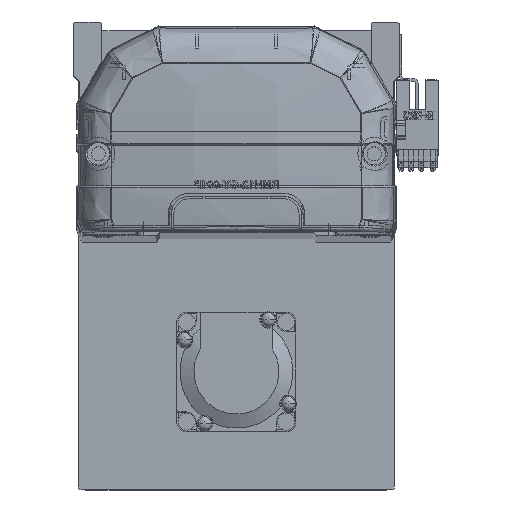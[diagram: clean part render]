
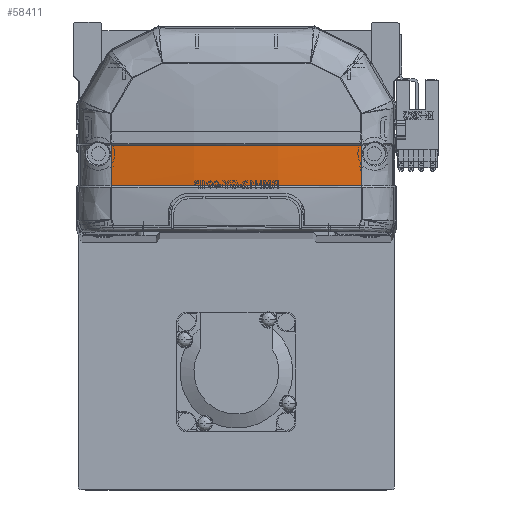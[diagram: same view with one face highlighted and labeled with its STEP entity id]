
A CAD part, top view. The second image highlights one B-rep face of the part: STEP entity #58411.
In plain terms, the highlighted free-form (B-spline) face has degree [3, 3] with [4, 4] control points.
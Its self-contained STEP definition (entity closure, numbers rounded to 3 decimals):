
#291 = CARTESIAN_POINT ( 'NONE',  ( -33.365, 15.83, -6.848 ) ) ;
#820 = CARTESIAN_POINT ( 'NONE',  ( -39.963, 28.706, -6.372 ) ) ;
#3650 = CARTESIAN_POINT ( 'NONE',  ( 39.963, 28.706, -6.372 ) ) ;
#4885 = CARTESIAN_POINT ( 'NONE',  ( -39.985, 15.83, -5.879 ) ) ;
#5295 = ORIENTED_EDGE ( 'NONE', *, *, #16341, .T. ) ;
#5633 = CARTESIAN_POINT ( 'NONE',  ( -39.973, 20.118, -6.142 ) ) ;
#6248 = CARTESIAN_POINT ( 'NONE',  ( -13.598, 28.769, -10.535 ) ) ;
#7015 = CARTESIAN_POINT ( 'NONE',  ( 40.461, 20.111, -6.066 ) ) ;
#8020 = CARTESIAN_POINT ( 'NONE',  ( -39.985, 15.83, -5.879 ) ) ;
#11520 = EDGE_CURVE ( 'NONE', #18329, #19950, #35708, .T. ) ;
#11659 = CARTESIAN_POINT ( 'NONE',  ( 40.461, 28.832, -6.296 ) ) ;
#11880 = CARTESIAN_POINT ( 'NONE',  ( 39.985, 15.83, -5.879 ) ) ;
#12145 = EDGE_CURVE ( 'NONE', #16200, #19950, #37299, .T. ) ;
#13871 = EDGE_CURVE ( 'NONE', #16200, #17634, #33442, .T. ) ;
#15777 = B_SPLINE_CURVE_WITH_KNOTS ( 'NONE', 3,
 ( #29321, #28522, #33249, #37924 ),
 .UNSPECIFIED., .F., .F.,
 ( 4, 4 ),
 ( 0., 1. ),
 .UNSPECIFIED. ) ;
#15968 = CARTESIAN_POINT ( 'NONE',  ( 40.461, 24.47, -6.231 ) ) ;
#16200 = VERTEX_POINT ( 'NONE', #47004 ) ;
#16341 = EDGE_CURVE ( 'NONE', #18329, #17634, #15777, .T. ) ;
#16360 = CARTESIAN_POINT ( 'NONE',  ( 13.598, 24.342, -10.47 ) ) ;
#17634 = VERTEX_POINT ( 'NONE', #42639 ) ;
#18069 = CARTESIAN_POINT ( 'NONE',  ( -36.679, 15.83, -6.395 ) ) ;
#18329 = VERTEX_POINT ( 'NONE', #11880 ) ;
#19950 = VERTEX_POINT ( 'NONE', #8020 ) ;
#20629 = CARTESIAN_POINT ( 'NONE',  ( -40.461, 28.832, -6.296 ) ) ;
#20828 = CARTESIAN_POINT ( 'NONE',  ( 13.598, 28.769, -10.535 ) ) ;
#21020 = CARTESIAN_POINT ( 'NONE',  ( -13.598, 24.342, -10.47 ) ) ;
#22759 = CARTESIAN_POINT ( 'NONE',  ( -6.692, 15.83, -8.984 ) ) ;
#28522 = CARTESIAN_POINT ( 'NONE',  ( 39.973, 20.12, -6.142 ) ) ;
#28584 = CARTESIAN_POINT ( 'NONE',  ( -39.966, 24.412, -6.306 ) ) ;
#29321 = CARTESIAN_POINT ( 'NONE',  ( 39.985, 15.83, -5.879 ) ) ;
#31452 = CARTESIAN_POINT ( 'NONE',  ( 26.749, 28.706, -8.432 ) ) ;
#32330 = CARTESIAN_POINT ( 'NONE',  ( -23.389, 15.83, -7.947 ) ) ;
#33249 = CARTESIAN_POINT ( 'NONE',  ( 39.966, 24.413, -6.306 ) ) ;
#33304 = CARTESIAN_POINT ( 'NONE',  ( -39.985, 15.83, -5.879 ) ) ;
#33442 = B_SPLINE_CURVE_WITH_KNOTS ( 'NONE', 3,
 ( #50028, #41254, #59422, #41437, #31452, #3650 ),
 .UNSPECIFIED., .F., .F.,
 ( 4, 2, 4 ),
 ( 0., 0.5, 1. ),
 .UNSPECIFIED. ) ;
#34910 = CARTESIAN_POINT ( 'NONE',  ( 40.461, 15.757, -5.8 ) ) ;
#35708 = B_SPLINE_CURVE_WITH_KNOTS ( 'NONE', 3,
 ( #41692, #37429, #51289, #22759, #60075, #32330, #41293, #291, #18069, #4885 ),
 .UNSPECIFIED., .F., .F.,
 ( 4, 2, 2, 2, 4 ),
 ( 0., 0.04, 0.06, 0.07, 0.08 ),
 .UNSPECIFIED. ) ;
#37299 = B_SPLINE_CURVE_WITH_KNOTS ( 'NONE', 3,
 ( #820, #28584, #5633, #33304 ),
 .UNSPECIFIED., .F., .F.,
 ( 4, 4 ),
 ( 0., 1. ),
 .UNSPECIFIED. ) ;
#37429 = CARTESIAN_POINT ( 'NONE',  ( 26.761, 15.83, -7.945 ) ) ;
#37924 = CARTESIAN_POINT ( 'NONE',  ( 39.963, 28.706, -6.372 ) ) ;
#39162 = FACE_OUTER_BOUND ( 'NONE', #57085, .T. ) ;
#41254 = CARTESIAN_POINT ( 'NONE',  ( -26.748, 28.706, -8.432 ) ) ;
#41293 = CARTESIAN_POINT ( 'NONE',  ( -26.721, 15.83, -7.624 ) ) ;
#41437 = CARTESIAN_POINT ( 'NONE',  ( 13.375, 28.707, -9.468 ) ) ;
#41692 = CARTESIAN_POINT ( 'NONE',  ( 39.985, 15.83, -5.879 ) ) ;
#42639 = CARTESIAN_POINT ( 'NONE',  ( 39.963, 28.706, -6.372 ) ) ;
#44231 = CARTESIAN_POINT ( 'NONE',  ( 13.598, 19.918, -10.302 ) ) ;
#47004 = CARTESIAN_POINT ( 'NONE',  ( -39.963, 28.706, -6.372 ) ) ;
#47555 = ORIENTED_EDGE ( 'NONE', *, *, #12145, .T. ) ;
#48544 = CARTESIAN_POINT ( 'NONE',  ( -40.461, 15.757, -5.8 ) ) ;
#48732 = CARTESIAN_POINT ( 'NONE',  ( 13.598, 15.499, -10.032 ) ) ;
#48922 = CARTESIAN_POINT ( 'NONE',  ( -13.598, 19.918, -10.302 ) ) ;
#50028 = CARTESIAN_POINT ( 'NONE',  ( -39.963, 28.706, -6.372 ) ) ;
#51289 = CARTESIAN_POINT ( 'NONE',  ( 13.38, 15.83, -8.984 ) ) ;
#51839 = ORIENTED_EDGE ( 'NONE', *, *, #13871, .F. ) ;
#53453 = CARTESIAN_POINT ( 'NONE',  ( -40.461, 24.47, -6.231 ) ) ;
#53650 = CARTESIAN_POINT ( 'NONE',  ( -40.461, 20.111, -6.066 ) ) ;
#57076 = ORIENTED_EDGE ( 'NONE', *, *, #11520, .F. ) ;
#57085 = EDGE_LOOP ( 'NONE', ( #5295, #51839, #47555, #57076 ) ) ;
#57955 = CARTESIAN_POINT ( 'NONE',  ( -13.598, 15.499, -10.032 ) ) ;
#58411 = ADVANCED_FACE ( 'NONE', ( #39162 ), #59131, .F. ) ;
#59131 =( BOUNDED_SURFACE ( )  B_SPLINE_SURFACE ( 3, 3, ( 
 ( #34910, #7015, #15968, #11659 ),
 ( #48732, #44231, #16360, #20828 ),
 ( #57955, #48922, #21020, #6248 ),
 ( #48544, #53650, #53453, #20629 ) ),
 .UNSPECIFIED., .F., .F., .F. ) 
 B_SPLINE_SURFACE_WITH_KNOTS ( ( 4, 4 ),
 ( 4, 4 ),
 ( 0., 1. ),
 ( 0., 1. ),
 .UNSPECIFIED. ) 
 GEOMETRIC_REPRESENTATION_ITEM ( )  RATIONAL_B_SPLINE_SURFACE ( (
 ( 1., 1., 1., 1.),
 ( 0.992, 0.992, 0.992, 0.992),
 ( 0.992, 0.992, 0.992, 0.992),
 ( 1., 1., 1., 1.) ) ) 
 REPRESENTATION_ITEM ( '' )  SURFACE ( )  );
#59422 = CARTESIAN_POINT ( 'NONE',  ( -13.373, 28.707, -9.468 ) ) ;
#60075 = CARTESIAN_POINT ( 'NONE',  ( -13.384, 15.83, -8.724 ) ) ;
